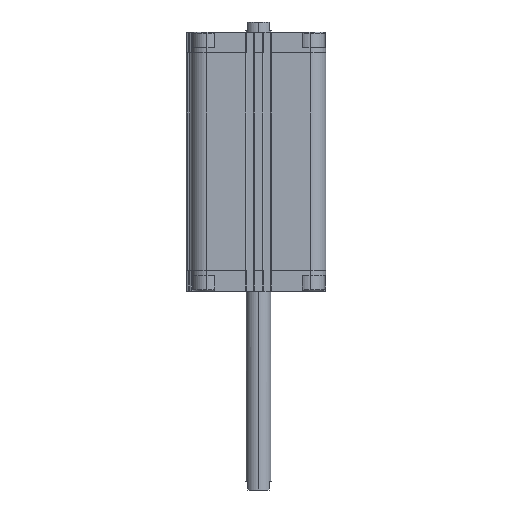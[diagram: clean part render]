
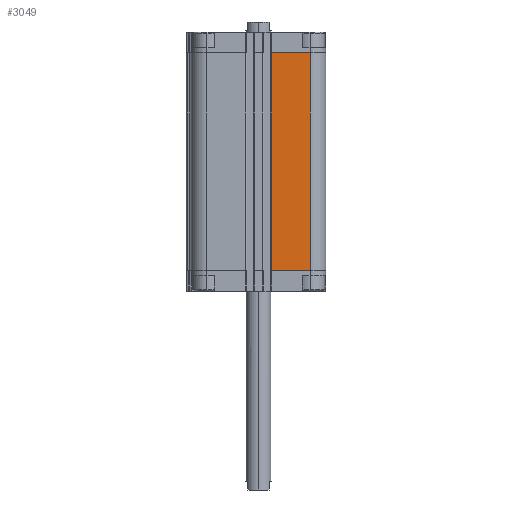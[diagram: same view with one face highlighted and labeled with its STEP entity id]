
A CAD part, left-side view. The second image highlights one B-rep face of the part: STEP entity #3049.
In plain terms, the highlighted planar face has unit normal (-1, 0, 0).
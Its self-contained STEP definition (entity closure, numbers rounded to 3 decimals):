
#335 = VERTEX_POINT ( 'NONE', #13221 ) ;
#422 = CARTESIAN_POINT ( 'NONE',  ( -53.5, -9.95, -189.5 ) ) ;
#706 = ORIENTED_EDGE ( 'NONE', *, *, #14746, .T. ) ;
#1169 = LINE ( 'NONE', #5993, #8932 ) ;
#2133 = LINE ( 'NONE', #422, #14078 ) ;
#2210 = VERTEX_POINT ( 'NONE', #2781 ) ;
#2781 = CARTESIAN_POINT ( 'NONE',  ( -53.5, -9.95, -189.5 ) ) ;
#2968 = AXIS2_PLACEMENT_3D ( 'NONE', #14328, #4239, #7467 ) ;
#3049 = ADVANCED_FACE ( 'NONE', ( #17455 ), #4340, .T. ) ;
#3234 = CARTESIAN_POINT ( 'NONE',  ( -53.5, -41., -189.5 ) ) ;
#4239 = DIRECTION ( 'NONE',  ( -1., 0., 0. ) ) ;
#4340 = PLANE ( 'NONE',  #2968 ) ;
#4814 = VECTOR ( 'NONE', #14799, 1000. ) ;
#5993 = CARTESIAN_POINT ( 'NONE',  ( -53.5, -9.95, -189.5 ) ) ;
#7047 = ORIENTED_EDGE ( 'NONE', *, *, #10686, .T. ) ;
#7467 = DIRECTION ( 'NONE',  ( 0., -1., 0. ) ) ;
#8345 = EDGE_CURVE ( 'NONE', #335, #17403, #16619, .T. ) ;
#8932 = VECTOR ( 'NONE', #9331, 1000. ) ;
#9331 = DIRECTION ( 'NONE',  ( 0., 0., 1. ) ) ;
#9345 = ORIENTED_EDGE ( 'NONE', *, *, #8345, .F. ) ;
#10184 = DIRECTION ( 'NONE',  ( 0., -1., 0. ) ) ;
#10634 = CARTESIAN_POINT ( 'NONE',  ( -53.5, -41., -189.5 ) ) ;
#10686 = EDGE_CURVE ( 'NONE', #19889, #17403, #18364, .T. ) ;
#11807 = VECTOR ( 'NONE', #18165, 1000. ) ;
#13178 = CARTESIAN_POINT ( 'NONE',  ( -53.5, -9.95, -16.5 ) ) ;
#13221 = CARTESIAN_POINT ( 'NONE',  ( -53.5, -9.95, -16.5 ) ) ;
#13476 = ORIENTED_EDGE ( 'NONE', *, *, #18056, .F. ) ;
#14078 = VECTOR ( 'NONE', #10184, 1000. ) ;
#14328 = CARTESIAN_POINT ( 'NONE',  ( -53.5, -9.95, -189.5 ) ) ;
#14746 = EDGE_CURVE ( 'NONE', #2210, #19889, #2133, .T. ) ;
#14799 = DIRECTION ( 'NONE',  ( 0., -1., 0. ) ) ;
#16619 = LINE ( 'NONE', #13178, #4814 ) ;
#17403 = VERTEX_POINT ( 'NONE', #19781 ) ;
#17453 = EDGE_LOOP ( 'NONE', ( #9345, #13476, #706, #7047 ) ) ;
#17455 = FACE_OUTER_BOUND ( 'NONE', #17453, .T. ) ;
#18056 = EDGE_CURVE ( 'NONE', #2210, #335, #1169, .T. ) ;
#18165 = DIRECTION ( 'NONE',  ( 0., 0., 1. ) ) ;
#18364 = LINE ( 'NONE', #3234, #11807 ) ;
#19781 = CARTESIAN_POINT ( 'NONE',  ( -53.5, -41., -16.5 ) ) ;
#19889 = VERTEX_POINT ( 'NONE', #10634 ) ;
